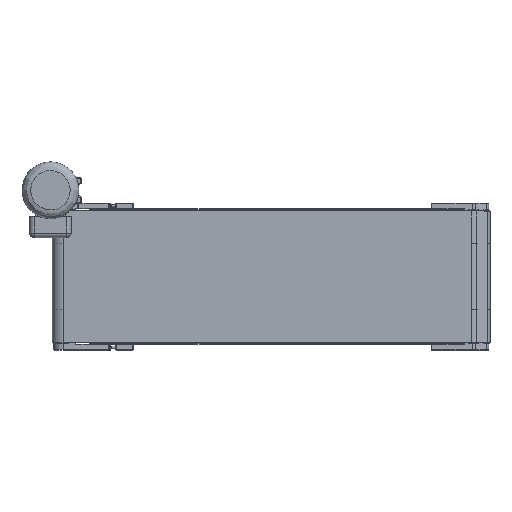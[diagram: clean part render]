
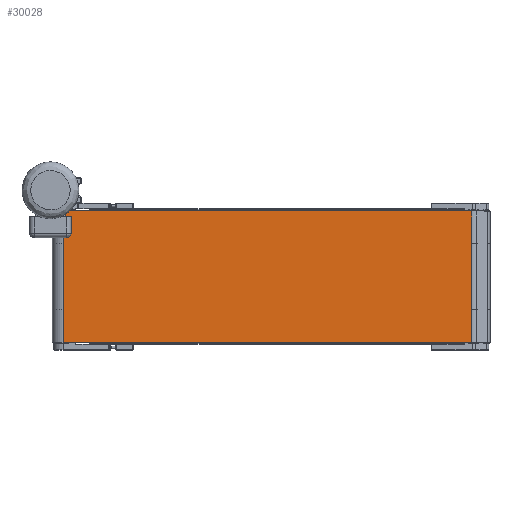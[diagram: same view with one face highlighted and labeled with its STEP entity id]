
A CAD part, top view. The second image highlights one B-rep face of the part: STEP entity #30028.
In plain terms, the highlighted planar face has unit normal (0, 0, 1).
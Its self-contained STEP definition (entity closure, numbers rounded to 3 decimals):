
#1942 = LINE ( 'NONE', #38461, #10769 ) ;
#1963 = EDGE_CURVE ( 'NONE', #6901, #6157, #23065, .T. ) ;
#4182 = EDGE_CURVE ( 'NONE', #22862, #41656, #5440, .T. ) ;
#4391 = ORIENTED_EDGE ( 'NONE', *, *, #28803, .F. ) ;
#5440 = LINE ( 'NONE', #33930, #32389 ) ;
#6157 = VERTEX_POINT ( 'NONE', #11725 ) ;
#6678 = DIRECTION ( 'NONE',  ( 0., -1., 0. ) ) ;
#6901 = VERTEX_POINT ( 'NONE', #36597 ) ;
#10769 = VECTOR ( 'NONE', #20201, 1000. ) ;
#11182 = CARTESIAN_POINT ( 'NONE',  ( 25.5, 300., 25.5 ) ) ;
#11387 = VECTOR ( 'NONE', #6678, 1000. ) ;
#11725 = CARTESIAN_POINT ( 'NONE',  ( 958.731, 0., 25.5 ) ) ;
#13168 = EDGE_CURVE ( 'NONE', #22862, #6901, #20642, .T. ) ;
#16209 = CARTESIAN_POINT ( 'NONE',  ( 25.5, 0., 25.5 ) ) ;
#17380 = DIRECTION ( 'NONE',  ( -1., 0., 0. ) ) ;
#19615 = CARTESIAN_POINT ( 'NONE',  ( 958.731, 300., 25.5 ) ) ;
#20201 = DIRECTION ( 'NONE',  ( 0., -1., 0. ) ) ;
#20450 = DIRECTION ( 'NONE',  ( 0., 0., -1. ) ) ;
#20642 = LINE ( 'NONE', #28209, #11387 ) ;
#22862 = VERTEX_POINT ( 'NONE', #11182 ) ;
#23065 = LINE ( 'NONE', #16209, #45918 ) ;
#23519 = DIRECTION ( 'NONE',  ( 1., 0., 0. ) ) ;
#24453 = PLANE ( 'NONE',  #30517 ) ;
#28209 = CARTESIAN_POINT ( 'NONE',  ( 25.5, 300., 25.5 ) ) ;
#28803 = EDGE_CURVE ( 'NONE', #41656, #6157, #1942, .T. ) ;
#30028 = ADVANCED_FACE ( 'NONE', ( #46035 ), #24453, .F. ) ;
#30517 = AXIS2_PLACEMENT_3D ( 'NONE', #38942, #20450, #17380 ) ;
#32389 = VECTOR ( 'NONE', #37008, 1000. ) ;
#33930 = CARTESIAN_POINT ( 'NONE',  ( 25.5, 300., 25.5 ) ) ;
#36597 = CARTESIAN_POINT ( 'NONE',  ( 25.5, 0., 25.5 ) ) ;
#37008 = DIRECTION ( 'NONE',  ( 1., 0., 0. ) ) ;
#37928 = EDGE_LOOP ( 'NONE', ( #38452, #4391, #42581, #39688 ) ) ;
#38452 = ORIENTED_EDGE ( 'NONE', *, *, #1963, .T. ) ;
#38461 = CARTESIAN_POINT ( 'NONE',  ( 958.731, 300., 25.5 ) ) ;
#38942 = CARTESIAN_POINT ( 'NONE',  ( 25.5, 300., 25.5 ) ) ;
#39688 = ORIENTED_EDGE ( 'NONE', *, *, #13168, .T. ) ;
#41656 = VERTEX_POINT ( 'NONE', #19615 ) ;
#42581 = ORIENTED_EDGE ( 'NONE', *, *, #4182, .F. ) ;
#45918 = VECTOR ( 'NONE', #23519, 1000. ) ;
#46035 = FACE_OUTER_BOUND ( 'NONE', #37928, .T. ) ;
